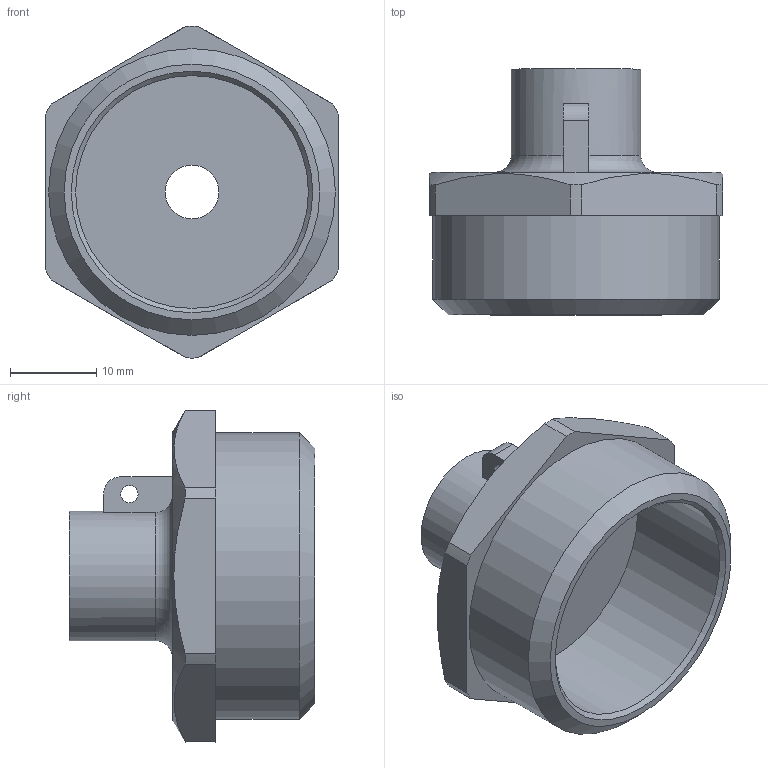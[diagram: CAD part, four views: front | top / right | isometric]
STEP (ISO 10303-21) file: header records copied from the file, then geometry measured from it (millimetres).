
FILE_DESCRIPTION(('STEP AP203'), '1');
FILE_NAME('ÂÐ.753138.003 - VTr.424.N.M006 Ïåðåõ. äàò÷. òåìï', '2024-07-03T06:55:21', ('Boss'), (''), 'C3D Converter', 'C3D Toolkit', '');
FILE_SCHEMA(('CONFIG_CONTROL_DESIGN'));
Length unit declared in the file: millimetre
Products named in the file (1): ВР.753138.003
Bounding box: 34 x 28.5 x 38.5 mm (x, y, z)
Volume: 8221.3 mm3; surface area: 5670.8 mm2
Topology: 1 solids, 1 shells, 34 faces, 81 edges, 53 vertices
Faces by surface type: plane 16, cylinder 13, cone 4, torus 1
Full cylindrical faces by diameter (mm): 2 x1, 6.2 x1, 8.917 x1, 15 x1, 27 x1, 33.249 x1
Entity records: 1329 total; most frequent: CARTESIAN_POINT 523, DIRECTION 165, ORIENTED_EDGE 142, EDGE_CURVE 71, AXIS2_PLACEMENT_3D 68, VERTEX_POINT 53, EDGE_LOOP 52, ADVANCED_FACE 34
